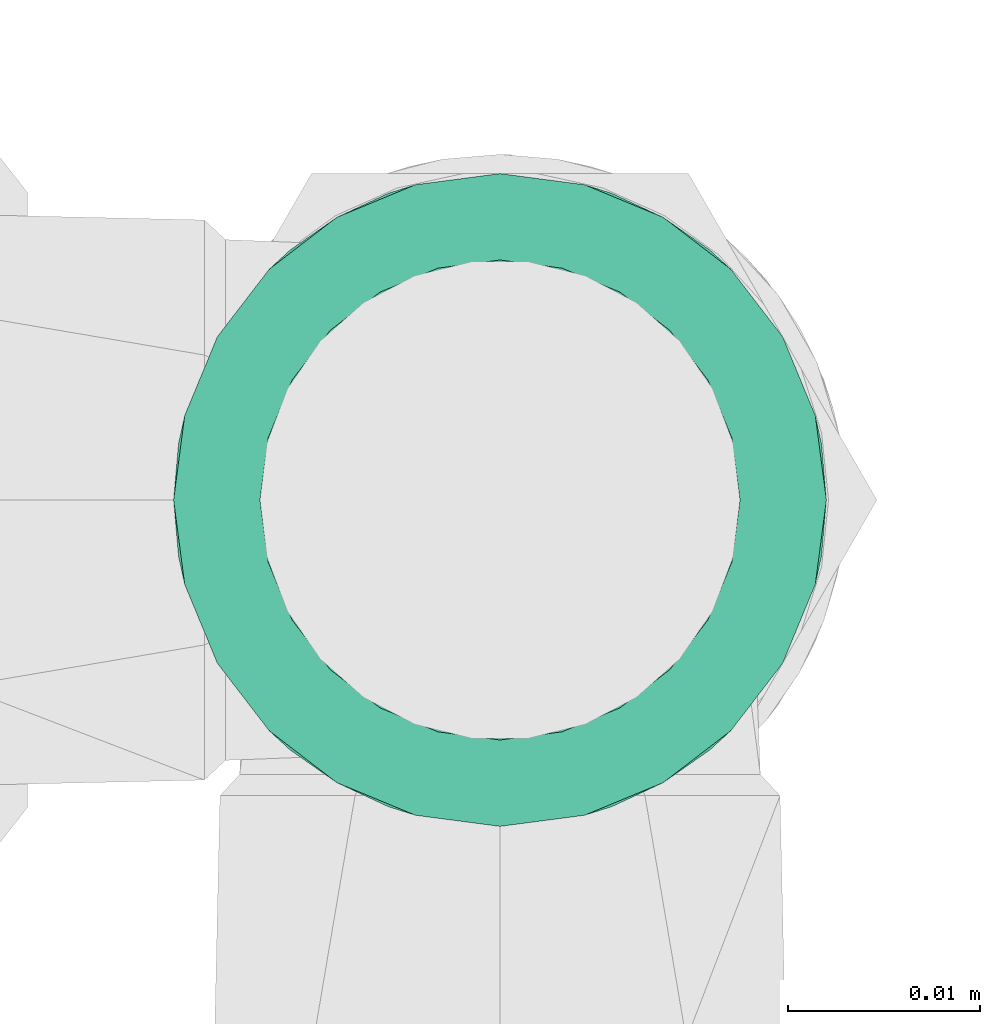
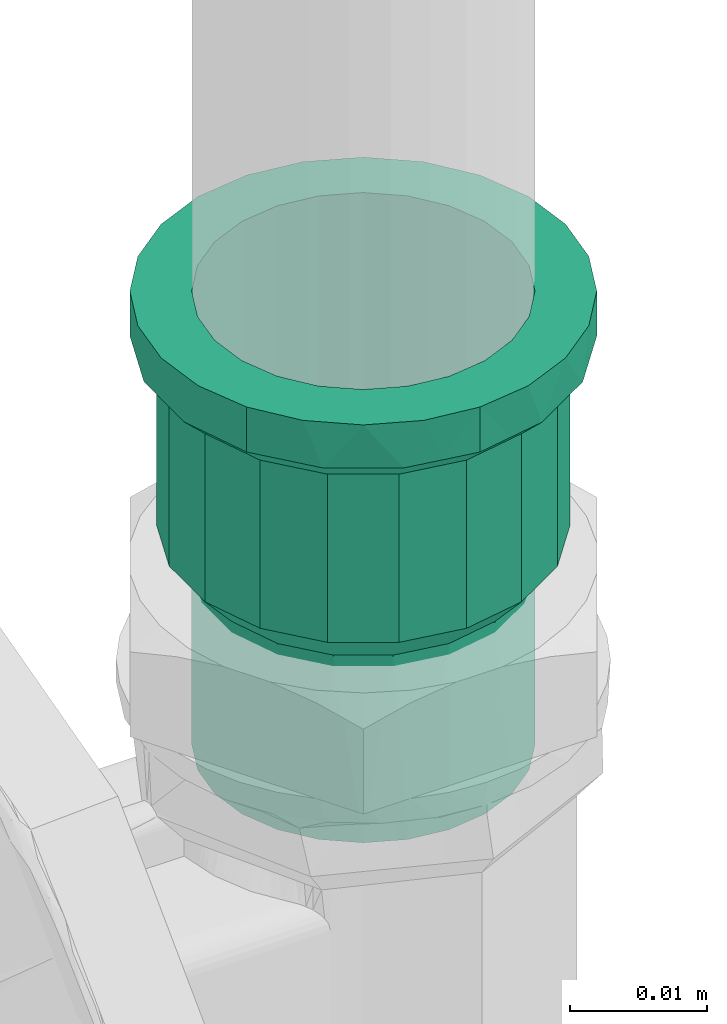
# One storey, part 371 of 589: 1 flow fitting.
"""IFC2X3 building model written with IfcOpenShell, lengths in millimetres."""

from ifc_helpers import new_model, entity, si_unit, converted_unit, derived_unit, direction, frame, origin, place, context, subcontext, project, spatial, faceted_brep, source, transform, mapped, material, type_object, type_shapes, element, save


model = new_model("IFC2X3")

# Units and contexts
model_context = context("Model", 3, precision=0.01, world=origin(), true_north=direction((6.123031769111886e-17, 1.0)))
body_context = subcontext(model_context, "Body", "Model", "MODEL_VIEW")
ifc_project = project(units=[si_unit("LENGTHUNIT", "METRE", prefix="MILLI"), si_unit("AREAUNIT", "SQUARE_METRE"), si_unit("VOLUMEUNIT", "CUBIC_METRE"), converted_unit("PLANEANGLEUNIT", "DEGREE", entity("IfcRatioMeasure", 0.017453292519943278), si_unit("PLANEANGLEUNIT", "RADIAN"), dimensions=[0, 0, 0, 0, 0, 0, 0]), si_unit("MASSUNIT", "GRAM", prefix="KILO"), derived_unit("MASSDENSITYUNIT", [(si_unit("MASSUNIT", "GRAM", prefix="KILO"), 1), (si_unit("LENGTHUNIT", "METRE"), -3)]), derived_unit("IONCONCENTRATIONUNIT", [(si_unit("MASSUNIT", "GRAM", prefix="KILO"), 1), (si_unit("LENGTHUNIT", "METRE"), -3)]), derived_unit("MOMENTOFINERTIAUNIT", [(si_unit("LENGTHUNIT", "METRE"), 4)]), si_unit("TIMEUNIT", "SECOND"), si_unit("FREQUENCYUNIT", "HERTZ"), si_unit("THERMODYNAMICTEMPERATUREUNIT", "DEGREE_CELSIUS"), derived_unit("THERMALTRANSMITTANCEUNIT", [(si_unit("MASSUNIT", "GRAM", prefix="KILO"), 1), (si_unit("THERMODYNAMICTEMPERATUREUNIT", "KELVIN"), -1), (si_unit("TIMEUNIT", "SECOND"), -3)]), derived_unit("THERMALCONDUCTANCEUNIT", [(si_unit("MASSUNIT", "GRAM", prefix="KILO"), 1), (si_unit("THERMODYNAMICTEMPERATUREUNIT", "KELVIN"), -1), (si_unit("TIMEUNIT", "SECOND"), -3), (si_unit("LENGTHUNIT", "METRE"), 1)]), derived_unit("VOLUMETRICFLOWRATEUNIT", [(si_unit("LENGTHUNIT", "METRE"), 3), (si_unit("TIMEUNIT", "SECOND"), -1)]), derived_unit("MASSFLOWRATEUNIT", [(si_unit("MASSUNIT", "GRAM", prefix="KILO"), 1), (si_unit("TIMEUNIT", "SECOND"), -1)]), derived_unit("ROTATIONALFREQUENCYUNIT", [(si_unit("TIMEUNIT", "SECOND"), -1)]), si_unit("ELECTRICCURRENTUNIT", "AMPERE"), si_unit("ELECTRICVOLTAGEUNIT", "VOLT"), si_unit("POWERUNIT", "WATT"), si_unit("FORCEUNIT", "NEWTON", prefix="KILO"), si_unit("ILLUMINANCEUNIT", "LUX"), si_unit("LUMINOUSFLUXUNIT", "LUMEN"), si_unit("LUMINOUSINTENSITYUNIT", "CANDELA"), derived_unit("USERDEFINED", [(si_unit("MASSUNIT", "GRAM", prefix="KILO"), -1), (si_unit("LENGTHUNIT", "METRE"), -2), (si_unit("TIMEUNIT", "SECOND"), 3), (si_unit("LUMINOUSFLUXUNIT", "LUMEN"), 1)]), derived_unit("USERDEFINED", [(si_unit("MASSUNIT", "GRAM", prefix="KILO"), 1), (si_unit("TIMEUNIT", "SECOND"), -3), (si_unit("LENGTHUNIT", "METRE"), 3), (si_unit("ELECTRICCURRENTUNIT", "AMPERE"), -2)]), derived_unit("SOUNDPOWERUNIT", [(si_unit("MASSUNIT", "GRAM", prefix="KILO"), 1), (si_unit("TIMEUNIT", "SECOND"), -3), (si_unit("LENGTHUNIT", "METRE"), 2)]), derived_unit("SOUNDPRESSUREUNIT", [(si_unit("MASSUNIT", "GRAM", prefix="KILO"), 1), (si_unit("LENGTHUNIT", "METRE"), -1), (si_unit("TIMEUNIT", "SECOND"), -2)]), derived_unit("LINEARVELOCITYUNIT", [(si_unit("LENGTHUNIT", "METRE"), 1), (si_unit("TIMEUNIT", "SECOND"), -1)]), si_unit("PRESSUREUNIT", "PASCAL"), derived_unit("USERDEFINED", [(si_unit("MASSUNIT", "GRAM", prefix="KILO"), 1), (si_unit("LENGTHUNIT", "METRE"), -2), (si_unit("TIMEUNIT", "SECOND"), -2)]), derived_unit("LINEARFORCEUNIT", [(si_unit("MASSUNIT", "GRAM", prefix="KILO"), 1), (si_unit("TIMEUNIT", "SECOND"), -2)]), derived_unit("PLANARFORCEUNIT", [(si_unit("MASSUNIT", "GRAM", prefix="KILO"), 1), (si_unit("LENGTHUNIT", "METRE"), -1), (si_unit("TIMEUNIT", "SECOND"), -2)]), derived_unit("SPECIFICHEATCAPACITYUNIT", [(si_unit("THERMODYNAMICTEMPERATUREUNIT", "KELVIN"), -1), (si_unit("LENGTHUNIT", "METRE"), 2), (si_unit("TIMEUNIT", "SECOND"), -2)]), derived_unit("HEATINGVALUEUNIT", [(si_unit("LENGTHUNIT", "METRE"), 2), (si_unit("TIMEUNIT", "SECOND"), -2)]), derived_unit("VAPORPERMEABILITYUNIT", [(si_unit("LENGTHUNIT", "METRE"), -1), (si_unit("TIMEUNIT", "SECOND"), 1)]), derived_unit("DYNAMICVISCOSITYUNIT", [(si_unit("MASSUNIT", "GRAM", prefix="KILO"), 1), (si_unit("TIMEUNIT", "SECOND"), -1), (si_unit("LENGTHUNIT", "METRE"), -1)]), derived_unit("THERMALEXPANSIONCOEFFICIENTUNIT", [(si_unit("THERMODYNAMICTEMPERATUREUNIT", "KELVIN"), -1)]), derived_unit("MODULUSOFELASTICITYUNIT", [(si_unit("MASSUNIT", "GRAM", prefix="KILO"), 1), (si_unit("LENGTHUNIT", "METRE"), -1), (si_unit("TIMEUNIT", "SECOND"), -2)]), derived_unit("ISOTHERMALMOISTURECAPACITYUNIT", [(si_unit("LENGTHUNIT", "METRE"), 3), (si_unit("MASSUNIT", "GRAM", prefix="KILO"), -1)]), derived_unit("MOISTUREDIFFUSIVITYUNIT", [(si_unit("TIMEUNIT", "SECOND"), -1), (si_unit("LENGTHUNIT", "METRE"), 2)])], contexts=[model_context])

# Site, building, storey
site_placement = place(None, origin())
site = spatial("IfcSite", under=ifc_project, at=site_placement, Name="Default", CompositionType="ELEMENT")
building_placement = place(site_placement, origin())
building = spatial("IfcBuilding", under=site, at=building_placement, CompositionType="ELEMENT")
storey_placement = place(building_placement, frame((0.0, 0.0, 100.0)))
storey = spatial("IfcBuildingStorey", under=building, at=storey_placement, Name="TÉRREO", CompositionType="ELEMENT", Elevation=100.0)

# Flow fitting
ifc_material = material(Name="PVC Marrom")
pipe_fitting_type = type_object("IfcPipeFittingType", Name="PVC Marrom Soldável_Adaptador Curto com Bolsa e Rosca Aninhado_Rodrigo MEP:Adaptador", PredefinedType="NOTDEFINED", material=ifc_material)
shared_shape = source(origin(), body_context, "Body", "Brep", [
    faceted_brep([(0.0, -8.500000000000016, -14.72243186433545), (0.0, -12.020815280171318, -12.0208152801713), (0.0, -6.2499999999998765, -10.825317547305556), (0.0, -3.2352380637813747, -12.07407282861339), (0.0, -4.399923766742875, -16.420739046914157), (0.0, -8.838834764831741, -8.83883476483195), (0.0, -14.722431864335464, -8.499999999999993), (0.0, -10.825317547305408, -6.250000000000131), (0.0, -12.074072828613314, -3.2352380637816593), (0.0, -16.42073904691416, -4.399923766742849), (0.0, -12.5, 0.0), (0.0, -17.0, 0.0), (0.0, -12.074072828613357, 3.2352380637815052), (0.0, -16.420739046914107, 4.399923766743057), (0.0, -10.825317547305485, 6.2499999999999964), (0.0, -14.722431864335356, 8.500000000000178), (0.0, -8.83883476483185, 8.838834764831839), (0.0, -12.020815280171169, 12.020815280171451), (0.0, -6.250000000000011, 10.82531754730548), (0.0, -8.499999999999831, 14.722431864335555), (0.0, -3.2352380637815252, 12.07407282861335), (0.0, -4.39992376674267, 16.42073904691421), (0.0, 0.0, 12.5), (0.0, 0.0, 17.0), (0.0, 3.2352380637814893, 12.07407282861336), (0.0, 4.399923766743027, 16.420739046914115), (0.0, 6.24999999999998, 10.825317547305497), (0.0, 8.500000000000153, 14.722431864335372), (0.0, 8.838834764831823, 8.838834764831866), (0.0, 12.020815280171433, 12.020815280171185), (0.0, 10.82531754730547, 6.250000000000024), (0.0, 14.722431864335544, 8.499999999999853), (0.0, 16.42073904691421, 4.399923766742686), (0.0, 12.074072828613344, 3.2352380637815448), (0.0, 17.0, 0.0), (0.0, 12.5, 0.0), (0.0, 16.42073904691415, -4.399923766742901), (0.0, 12.074072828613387, -3.235238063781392), (0.0, 14.722431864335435, -8.500000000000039), (0.0, 10.82531754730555, -6.249999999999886), (0.0, 12.02081528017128, -12.020815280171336), (0.0, 8.838834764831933, -8.838834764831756), (0.0, 8.499999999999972, -14.722431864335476), (0.0, 6.250000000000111, -10.825317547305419), (0.0, 4.399923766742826, -16.42073904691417), (0.0, 3.235238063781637, -12.074072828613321), (0.0, 0.0, -17.0), (0.0, 0.0, -12.5), (4.0, 15.974612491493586, 5.8147876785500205), (4.0, 16.487306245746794, 2.9073938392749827), (4.0, 10.760457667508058, 12.825628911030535), (4.0, 13.022146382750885, 10.928115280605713), (4.0, 14.498379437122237, 8.371451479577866), (4.0, 5.724460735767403, 15.732601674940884), (4.0, 2.9501525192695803, 16.742060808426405), (4.0, 16.599682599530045, 2.2701277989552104), (4.0, 17.0, 0.0), (4.0, 8.498768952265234, 14.723142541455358), (4.0, -8.502461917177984, 14.721010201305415), (4.0, -5.728407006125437, 15.731165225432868), (4.0, -2.954352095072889, 16.74132024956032), (4.0, -13.02488724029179, 10.924848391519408), (4.0, -10.763674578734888, 12.82292929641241), (4.0, -17.0, 0.0), (4.0, -15.976070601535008, 5.8107803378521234), (4.0, -14.5004789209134, 8.367814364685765), (4.0, -0.002099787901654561, 16.741690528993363), (4.0, -15.97607060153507, -5.810780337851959), (4.0, -10.763674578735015, -12.822929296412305), (4.0, -13.024887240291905, -10.92484839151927), (4.0, -14.500478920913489, -8.367814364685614), (4.0, -5.728407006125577, -15.731165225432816), (4.0, -2.9543520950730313, -16.741320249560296), (4.0, -8.502461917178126, -14.721010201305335), (4.0, 16.487306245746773, -2.907393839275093), (4.0, 8.498768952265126, -14.72314254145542), (4.0, 5.724460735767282, -15.732601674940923), (4.0, 2.950152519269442, -16.74206080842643), (4.0, 13.022146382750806, -10.928115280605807), (4.0, 10.760457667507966, -12.825628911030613), (4.0, 15.974612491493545, -5.814787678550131), (4.0, 14.498379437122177, -8.371451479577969), (4.0, -0.002099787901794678, -16.741690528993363), (4.0, 16.599682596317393, -2.270127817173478), (20.85, 14.535973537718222, 2.9149513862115), (20.85, 14.596115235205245, 2.5738986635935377), (20.850000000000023, 15.05, 0.0), (5.900000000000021, 15.05, 0.0), (5.900000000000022, 14.59611523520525, 2.5738986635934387), (5.900000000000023, 14.142230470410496, 5.147797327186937), (20.84999999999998, 14.142230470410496, 5.147797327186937), (20.849999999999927, 9.52616987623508, 11.354453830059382), (20.84999999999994, 11.528429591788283, 9.674596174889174), (5.900000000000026, 11.528429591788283, 9.674596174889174), (5.900000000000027, 9.526169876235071, 11.354453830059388), (5.900000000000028, 7.523910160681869, 13.034311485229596), (20.84999999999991, 7.523910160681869, 13.034311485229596), (20.849999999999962, 12.835330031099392, 7.411196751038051), (5.900000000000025, 12.83533003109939, 7.411196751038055), (20.849999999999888, 2.6117526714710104, 14.821647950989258), (20.849999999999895, 5.067831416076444, 13.927979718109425), (5.900000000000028, 5.067831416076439, 13.927979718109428), (5.900000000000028, 2.6117526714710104, 14.821647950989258), (20.849999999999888, -2.61547053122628, 14.820992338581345), (20.849999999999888, -0.0018589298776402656, 14.821320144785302), (5.900000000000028, -0.0018589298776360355, 14.8213201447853), (5.900000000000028, -2.615470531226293, 14.820992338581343), (20.849999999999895, -5.0713250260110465, 13.926708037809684), (5.900000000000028, -5.071325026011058, 13.92670803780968), (5.900000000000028, -7.527179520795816, 13.032423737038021), (20.849999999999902, -7.527179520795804, 13.032423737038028), (5.900000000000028, -9.52901778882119, 11.35206387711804), (5.900000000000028, -11.530856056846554, 9.671704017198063), (20.84999999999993, -11.530856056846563, 9.671704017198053), (20.849999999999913, -9.529017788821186, 11.352063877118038), (20.849999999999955, -12.837188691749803, 7.407976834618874), (5.900000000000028, -12.837188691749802, 7.407976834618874), (5.900000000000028, -14.143521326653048, 5.144249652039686), (20.849999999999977, -14.143521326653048, 5.144249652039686), (5.900000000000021, -15.05, 0.0), (20.850000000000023, -15.05, 0.0), (20.85000000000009, -14.143521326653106, -5.144249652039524), (5.900000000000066, -14.143521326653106, -5.144249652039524), (20.850000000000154, -7.527179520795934, -13.032423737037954), (20.85000000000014, -9.529017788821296, -11.352063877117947), (20.85000000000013, -11.530856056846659, -9.67170401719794), (5.900000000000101, -11.530856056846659, -9.67170401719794), (5.900000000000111, -9.529017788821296, -11.352063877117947), (5.900000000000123, -7.527179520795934, -13.032423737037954), (5.90000000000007, 12.835330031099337, -7.411196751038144), (5.900000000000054, 14.142230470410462, -5.147797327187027), (20.850000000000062, 14.142230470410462, -5.147797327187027), (20.850000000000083, 12.835330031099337, -7.411196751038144), (20.850000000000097, 11.528429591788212, -9.67459617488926), (5.900000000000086, 11.528429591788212, -9.67459617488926), (5.90000000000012, 5.067831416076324, -13.927979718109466), (5.900000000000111, 7.523910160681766, -13.034311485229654), (20.850000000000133, 7.523910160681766, -13.034311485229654), (20.85000000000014, 5.067831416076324, -13.927979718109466), (20.850000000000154, 2.6117526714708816, -14.821647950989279), (5.900000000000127, 2.6117526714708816, -14.821647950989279), (20.850000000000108, -12.837188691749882, -7.40797683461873), (5.900000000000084, -12.837188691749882, -7.407976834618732), (20.85000000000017, -2.6154705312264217, -14.82099233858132), (20.850000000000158, -5.071325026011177, -13.926708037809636), (5.900000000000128, -5.071325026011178, -13.926708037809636), (5.900000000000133, -2.6154705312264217, -14.82099233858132), (5.900000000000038, 14.596115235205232, -2.573898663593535), (20.85000000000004, 14.667751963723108, -2.1676596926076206), (20.850000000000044, 14.535973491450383, -2.91495164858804), (5.900000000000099, 9.526169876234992, -11.354453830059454), (20.850000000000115, 9.52616987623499, -11.354453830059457), (20.850000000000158, -0.0018589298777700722, -14.821320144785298), (5.900000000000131, -0.0018589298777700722, -14.821320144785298), (40.29999999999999, 0.0, -12.5), (40.29999999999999, 3.2352380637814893, -12.07407282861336), (40.29999999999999, 6.24999999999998, -10.825317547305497), (40.29999999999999, 8.838834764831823, -8.838834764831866), (40.29999999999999, 10.825317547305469, -6.2500000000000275), (40.29999999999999, 12.074072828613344, -3.2352380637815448), (40.29999999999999, 12.5, 0.0), (40.29999999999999, 12.074072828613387, 3.235238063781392), (40.29999999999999, 10.825317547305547, 6.249999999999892), (40.29999999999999, 8.838834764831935, 8.838834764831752), (40.29999999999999, 6.250000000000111, 10.825317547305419), (40.29999999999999, 3.235238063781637, 12.074072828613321), (40.29999999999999, 0.0, 12.5), (40.29999999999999, -3.2352380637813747, 12.07407282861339), (40.29999999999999, -6.2499999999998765, 10.825317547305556), (40.29999999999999, -8.838834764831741, 8.83883476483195), (40.29999999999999, -10.825317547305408, 6.250000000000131), (40.29999999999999, -12.074072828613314, 3.2352380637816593), (40.29999999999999, -12.5, 0.0), (40.29999999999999, -12.074072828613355, -3.2352380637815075), (40.29999999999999, -10.825317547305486, -6.249999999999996), (40.29999999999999, -8.83883476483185, -8.838834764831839), (40.29999999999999, -6.250000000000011, -10.82531754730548), (40.29999999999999, -3.2352380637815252, -12.07407282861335), (23.749999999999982, 12.5, 0.0), (23.74999999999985, 9.57510763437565, 8.035378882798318), (23.749999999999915, 11.746038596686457, 4.275579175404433), (23.749999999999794, 6.249094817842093, 10.825840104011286), (23.74999999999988, 10.66057311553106, 6.155479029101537), (23.74999999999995, 12.182518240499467, 1.8003818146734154), (23.74999999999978, 4.209162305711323, 11.56808946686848), (23.74999999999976, 2.1692297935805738, 12.310338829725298), (23.74999999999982, 7.912101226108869, 9.430609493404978), (23.749999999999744, -2.1723177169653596, 12.309794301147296), (23.749999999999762, -6.251810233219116, 10.824272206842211), (23.749999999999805, -9.577122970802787, 8.032976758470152), (23.749999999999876, -11.747110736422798, 4.272632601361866), (23.749999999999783, -7.9144666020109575, 9.428624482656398), (23.74999999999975, -4.212063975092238, 11.56703325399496), (23.749999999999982, -12.5, 0.0), (23.749999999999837, -10.662116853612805, 6.15280467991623), (23.74999999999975, -0.0015439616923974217, 12.31006656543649), (23.750000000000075, -9.577122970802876, -8.032976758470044), (23.75000000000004, -11.747110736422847, -4.272632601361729), (23.750000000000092, -6.2518102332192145, -10.824272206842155), (23.750000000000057, -10.662116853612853, -6.152804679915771), (23.7500000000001, -4.212063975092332, -11.56703325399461), (23.7500000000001, -2.1723177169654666, -12.309794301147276), (23.75000000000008, -7.914466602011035, -9.428624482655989), (23.750000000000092, 2.1692297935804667, -12.310338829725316), (23.750000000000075, 6.249094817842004, -10.82584010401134), (23.750000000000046, 9.575107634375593, -8.035378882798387), (23.750000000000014, 11.74603859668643, -4.275579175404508), (23.750000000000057, 7.912101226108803, -9.430609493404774), (23.75000000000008, 4.209162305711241, -11.56808946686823), (23.749999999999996, 12.123019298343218, -2.1377895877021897), (23.750000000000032, 10.660573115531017, -6.155479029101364), (23.750000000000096, -0.0015439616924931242, -12.310066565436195), (5.900000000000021, 12.07407282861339, -3.2352380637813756), (20.850000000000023, 12.07407282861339, -3.2352380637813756), (20.850000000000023, 12.5, 0.0), (5.900000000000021, 12.5, 0.0), (4.0, 12.5, 0.0), (4.0, 12.07407282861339, -3.2352380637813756), (5.900000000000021, 10.825317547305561, -6.249999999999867), (20.850000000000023, 10.825317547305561, -6.249999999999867), (4.0, 10.825317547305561, -6.249999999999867), (20.850000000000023, 6.250000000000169, -10.825317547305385), (20.850000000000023, 8.838834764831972, -8.838834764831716), (5.900000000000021, 8.838834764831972, -8.838834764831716), (4.0, 8.838834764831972, -8.838834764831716), (4.0, 6.250000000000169, -10.825317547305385), (5.900000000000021, 6.250000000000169, -10.825317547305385), (20.850000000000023, 3.235238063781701, -12.074072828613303), (4.0, 3.235238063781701, -12.074072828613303), (5.900000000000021, 3.235238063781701, -12.074072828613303), (20.850000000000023, 0.0, -12.5), (4.0, 0.0, -12.5), (5.900000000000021, 0.0, -12.5), (5.900000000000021, -3.2352380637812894, -12.074072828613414), (20.850000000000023, -3.2352380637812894, -12.074072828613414), (4.0, -3.2352380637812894, -12.074072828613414), (5.900000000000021, -6.24999999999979, -10.825317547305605), (20.850000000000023, -6.24999999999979, -10.825317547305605), (4.0, -6.24999999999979, -10.825317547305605), (20.850000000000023, -10.825317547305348, -6.250000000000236), (20.850000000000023, -8.838834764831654, -8.838834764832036), (5.900000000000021, -8.838834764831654, -8.838834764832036), (4.0, -8.838834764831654, -8.838834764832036), (4.0, -10.825317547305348, -6.250000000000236), (5.900000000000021, -10.825317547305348, -6.250000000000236), (20.850000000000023, -12.07407282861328, -3.2352380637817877), (4.0, -12.07407282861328, -3.2352380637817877), (5.900000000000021, -12.07407282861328, -3.2352380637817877), (20.850000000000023, -12.5, 0.0), (4.0, -12.5, 0.0), (5.900000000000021, -12.5, 0.0), (5.900000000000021, -12.074072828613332, 3.2352380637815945), (20.850000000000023, -12.074072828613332, 3.2352380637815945), (4.0, -12.074072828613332, 3.2352380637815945), (5.900000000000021, -10.82531754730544, 6.250000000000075), (20.850000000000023, -10.82531754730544, 6.250000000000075), (4.0, -10.82531754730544, 6.250000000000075), (20.850000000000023, -6.249999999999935, 10.825317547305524), (20.850000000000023, -8.838834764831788, 8.838834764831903), (5.900000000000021, -8.838834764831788, 8.838834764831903), (4.0, -8.838834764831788, 8.838834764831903), (4.0, -6.249999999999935, 10.825317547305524), (5.900000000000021, -6.249999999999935, 10.825317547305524), (20.850000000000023, -3.2352380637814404, 12.074072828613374), (4.0, -3.2352380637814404, 12.074072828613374), (5.900000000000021, -3.2352380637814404, 12.074072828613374), (20.850000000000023, 0.0, 12.5), (4.0, 0.0, 12.5), (5.900000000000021, 0.0, 12.5), (5.900000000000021, 3.2352380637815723, 12.074072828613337), (20.850000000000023, 3.2352380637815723, 12.074072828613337), (4.0, 3.2352380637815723, 12.074072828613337), (5.900000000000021, 6.250000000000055, 10.825317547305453), (20.850000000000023, 6.250000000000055, 10.825317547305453), (4.0, 6.250000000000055, 10.825317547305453), (20.850000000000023, 10.825317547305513, 6.249999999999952), (20.850000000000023, 8.838834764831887, 8.838834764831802), (5.900000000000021, 8.838834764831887, 8.838834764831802), (4.0, 8.838834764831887, 8.838834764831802), (4.0, 10.825317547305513, 6.249999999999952), (5.900000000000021, 10.825317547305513, 6.249999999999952), (20.850000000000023, 12.07407282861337, 3.2352380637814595), (4.0, 12.07407282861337, 3.2352380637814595), (5.900000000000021, 12.07407282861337, 3.2352380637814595)], [[[0, 1, 2]], [[0, 2, 3]], [[3, 4, 0]], [[2, 1, 5]], [[6, 5, 1]], [[7, 5, 6]], [[8, 7, 6]], [[8, 6, 9]], [[8, 9, 10]], [[10, 9, 11]], [[12, 10, 11]], [[12, 11, 13]], [[14, 12, 13]], [[14, 13, 15]], [[16, 14, 15]], [[15, 17, 16]], [[17, 18, 16]], [[18, 17, 19]], [[18, 19, 20]], [[21, 20, 19]], [[20, 21, 22]], [[22, 21, 23]], [[23, 24, 22]], [[24, 23, 25]], [[24, 25, 26]], [[27, 26, 25]], [[27, 28, 26]], [[27, 29, 28]], [[30, 28, 29]], [[31, 30, 29]], [[32, 30, 31]], [[33, 30, 32]], [[33, 32, 34]], [[34, 35, 33]], [[36, 35, 34]], [[36, 37, 35]], [[37, 36, 38]], [[39, 37, 38]], [[39, 38, 40]], [[39, 40, 41]], [[40, 42, 41]], [[41, 42, 43]], [[43, 42, 44]], [[44, 45, 43]], [[46, 45, 44]], [[4, 47, 46]], [[45, 46, 47]], [[4, 3, 47]], [[32, 48, 49]], [[50, 51, 29]], [[52, 48, 31, 51]], [[53, 25, 54]], [[48, 32, 31]], [[34, 49, 55, 56]], [[27, 57, 50]], [[29, 27, 50]], [[29, 51, 31]], [[19, 58, 59]], [[21, 19, 59]], [[53, 57, 27]], [[25, 53, 27]], [[54, 25, 23]], [[32, 49, 34]], [[59, 60, 21]], [[61, 62, 17]], [[63, 64, 13]], [[65, 61, 15, 64]], [[11, 63, 13]], [[17, 62, 19]], [[66, 54, 23, 60]], [[21, 60, 23]], [[61, 17, 15]], [[19, 62, 58]], [[13, 64, 15]], [[67, 63, 9]], [[68, 69, 1]], [[70, 67, 6, 69]], [[71, 4, 72]], [[67, 9, 6]], [[63, 11, 9]], [[4, 71, 0]], [[0, 73, 68]], [[1, 69, 6]], [[36, 34, 74]], [[42, 75, 76]], [[71, 73, 0]], [[44, 42, 76]], [[72, 4, 46]], [[1, 0, 68]], [[76, 77, 44]], [[78, 79, 40]], [[74, 80, 36]], [[81, 78, 38, 80]], [[36, 80, 38]], [[40, 79, 42]], [[82, 72, 46, 77]], [[44, 77, 46]], [[78, 40, 38]], [[42, 79, 75]], [[34, 56, 83, 74]], [[84, 85, 86, 87, 88, 89, 90]], [[91, 92, 93, 94, 95, 96]], [[92, 97, 90, 89, 98, 93]], [[99, 100, 96, 95, 101, 102]], [[103, 104, 99, 102, 105, 106]], [[107, 103, 106, 108, 109, 110]], [[111, 112, 113, 114, 110, 109]], [[115, 113, 112, 116, 117, 118]], [[117, 119, 120, 118]], [[121, 120, 119, 122]], [[123, 124, 125, 126, 127, 128]], [[129, 130, 131, 132, 133, 134]], [[135, 136, 137, 138, 139, 140]], [[125, 141, 121, 122, 142, 126]], [[143, 144, 123, 128, 145, 146]], [[131, 130, 147, 87, 86, 148, 149]], [[150, 134, 133, 151, 137, 136]], [[139, 152, 143, 146, 153, 140]], [[154, 155, 156, 157, 158, 159, 160, 161, 162, 163, 164, 165, 166, 167, 168, 169, 170, 171, 172, 173, 174, 175, 176, 177]], [[161, 160, 178]], [[163, 162, 179]], [[180, 162, 161]], [[181, 164, 163]], [[162, 180, 182, 179]], [[161, 178, 183, 180]], [[165, 181, 184, 185]], [[163, 179, 186, 181]], [[166, 165, 185]], [[165, 164, 181]], [[166, 187, 167]], [[167, 188, 168]], [[170, 169, 189]], [[188, 169, 168]], [[171, 170, 190]], [[169, 188, 191, 189]], [[167, 187, 192, 188]], [[190, 193, 171]], [[170, 189, 194, 190]], [[193, 172, 171]], [[166, 185, 195, 187]], [[173, 172, 193]], [[175, 174, 196]], [[197, 174, 173]], [[198, 176, 175]], [[174, 197, 199, 196]], [[173, 193, 197]], [[177, 198, 200, 201]], [[175, 196, 202, 198]], [[154, 177, 201]], [[177, 176, 198]], [[154, 203, 155]], [[155, 204, 156]], [[158, 157, 205]], [[204, 157, 156]], [[159, 158, 206]], [[157, 204, 207, 205]], [[155, 203, 208, 204]], [[159, 206, 209, 178]], [[158, 205, 210, 206]], [[178, 160, 159]], [[154, 201, 211, 203]], [[212, 213, 214, 215, 216, 35, 37, 217]], [[218, 219, 213, 212, 217, 37, 39, 220]], [[221, 222, 223, 224, 41, 43, 225, 226]], [[218, 220, 39, 41, 224, 223, 222, 219]], [[227, 221, 226, 225, 43, 45, 228, 229]], [[230, 227, 229, 228, 45, 47, 231, 232]], [[233, 234, 230, 232, 231, 47, 3, 235]], [[236, 237, 234, 233, 235, 3, 2, 238]], [[239, 240, 241, 242, 5, 7, 243, 244]], [[236, 238, 2, 5, 242, 241, 240, 237]], [[245, 239, 244, 243, 7, 8, 246, 247]], [[248, 245, 247, 246, 8, 10, 249, 250]], [[251, 252, 248, 250, 249, 10, 12, 253]], [[254, 255, 252, 251, 253, 12, 14, 256]], [[257, 258, 259, 260, 16, 18, 261, 262]], [[254, 256, 14, 16, 260, 259, 258, 255]], [[263, 257, 262, 261, 18, 20, 264, 265]], [[266, 263, 265, 264, 20, 22, 267, 268]], [[269, 270, 266, 268, 267, 22, 24, 271]], [[272, 273, 270, 269, 271, 24, 26, 274]], [[275, 276, 277, 278, 28, 30, 279, 280]], [[272, 274, 26, 28, 278, 277, 276, 273]], [[281, 275, 280, 279, 30, 33, 282, 283]], [[214, 281, 283, 282, 33, 35, 216, 215]], [[63, 67, 122, 119]], [[145, 128, 73, 71, 72, 146]], [[68, 73, 128, 127, 126, 69]], [[126, 142, 122, 67, 70, 69]], [[76, 75, 136, 135, 140, 77]], [[81, 80, 130, 129, 134, 78]], [[147, 130, 80, 74, 83, 56, 87]], [[140, 153, 146, 72, 82, 77]], [[134, 150, 136, 75, 79, 78]], [[89, 88, 87, 56, 55, 49, 48]], [[98, 89, 48, 52, 51, 93]], [[94, 93, 51, 50, 57, 95]], [[57, 53, 54, 102, 101, 95]], [[66, 60, 106, 105, 102, 54]], [[58, 109, 108, 106, 60, 59]], [[63, 119, 117, 64]], [[61, 65, 64, 117, 116, 112]], [[58, 62, 61, 112, 111, 109]], [[227, 230, 234, 237, 240, 239, 245, 248, 252, 255, 258, 257, 263, 266, 270, 273, 276, 275, 281, 214, 213, 219, 222, 221]], [[180, 183, 178, 86, 85, 84, 90]], [[100, 99, 185, 184, 181, 96]], [[181, 186, 179, 92, 91, 96]], [[179, 182, 180, 90, 97, 92]], [[104, 103, 187, 195, 185, 99]], [[115, 118, 190, 194, 189, 113]], [[107, 110, 188, 192, 187, 103]], [[118, 120, 193, 190]], [[189, 191, 188, 110, 114, 113]], [[120, 121, 197, 193]], [[200, 198, 123, 144, 143, 201]], [[124, 123, 198, 202, 196, 125]], [[196, 199, 197, 121, 141, 125]], [[138, 137, 204, 208, 203, 139]], [[132, 131, 206, 210, 205, 133]], [[209, 206, 131, 149, 148, 86, 178]], [[203, 211, 201, 143, 152, 139]], [[205, 207, 204, 137, 151, 133]]]),
])
type_shapes(pipe_fitting_type, [shared_shape])
flow_fitting_placement = place(storey_placement, frame((-2746.898265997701, 1275.961226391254, 2254.75), z_axis=(-1.0, 0.0, 0.0), x_axis=(0.0, 0.0, -1.0)))
element("IfcFlowFitting", 1, at=flow_fitting_placement, inside=storey, type_object=pipe_fitting_type, material=ifc_material, Name="PVC Marrom Soldável_Adaptador Curto com Bolsa e Rosca Aninhado_Rodrigo MEP:Adaptador", ObjectType="PVC Marrom Soldável_Adaptador Curto com Bolsa e Rosca Aninhado_Rodrigo MEP:Adaptador", context=body_context, shape_type="MappedRepresentation", body=[
    mapped(shared_shape, transform((0.0, 0.0, 0.0), scale=1.0)),
])

save(model, "model.ifc")
